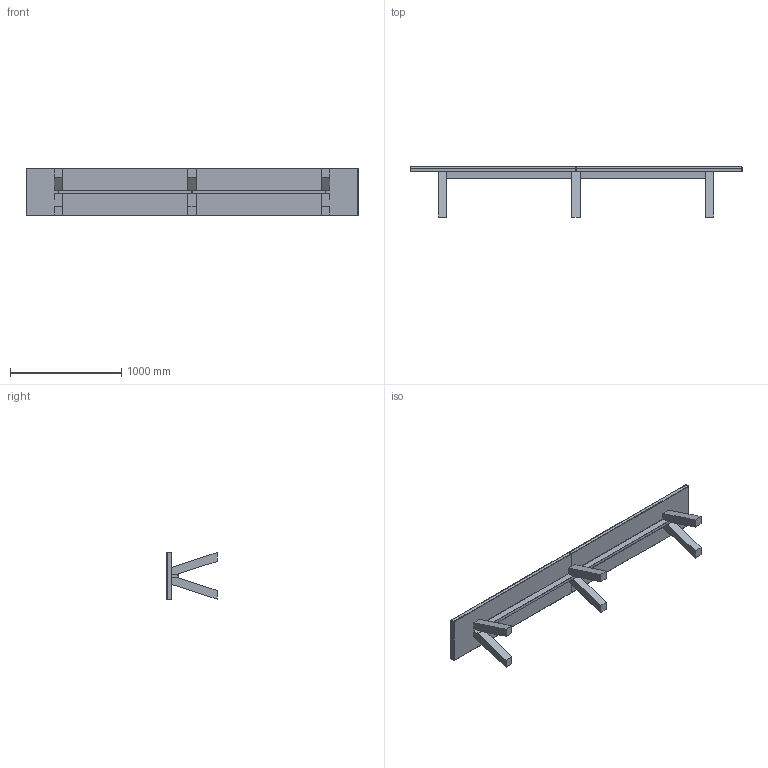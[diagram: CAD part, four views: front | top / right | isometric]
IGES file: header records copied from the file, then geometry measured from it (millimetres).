
Start section: SolidWorks IGES file using NURBS representation for surfaces
Global section: file name: W:\01-VICCARBE\PRODUCTOS\45-TRESTLE\04-MODELADOS (PLANOS)\WEB\IGES\viccarbe_trestle_double.IGS; native system: SolidWorks 2013; preprocessor: SolidWorks 2013; author: Usuario; date: 140917.173507; units: millimetre
Bounding box: 2980 x 450 x 430 mm (x, y, z)
Surface area: 4496052.5 mm2 (no closed solid volume)
Topology: 0 solids, 0 shells, 118 faces, 492 edges, 484 vertices
Faces by surface type: bspline 118
